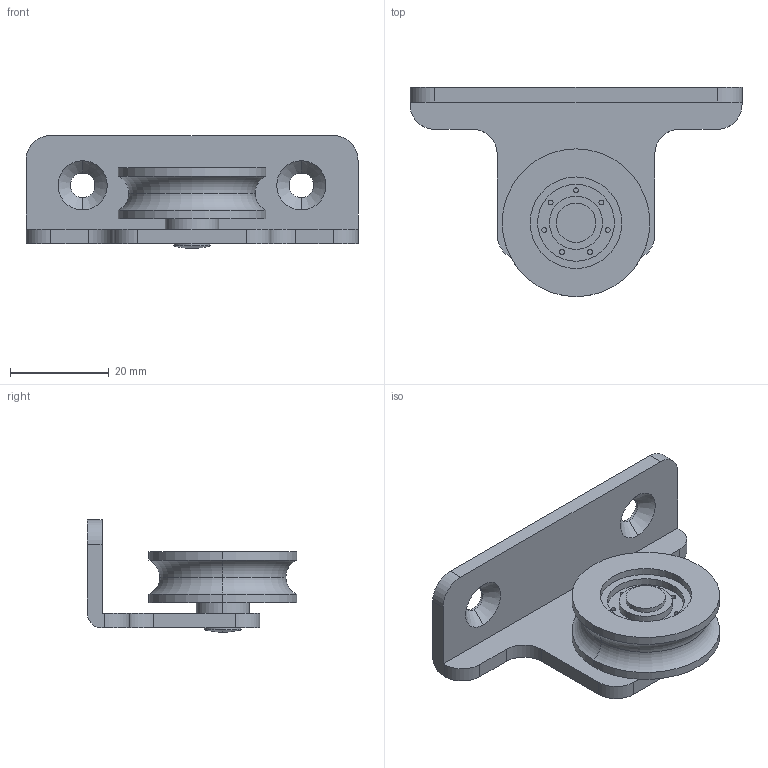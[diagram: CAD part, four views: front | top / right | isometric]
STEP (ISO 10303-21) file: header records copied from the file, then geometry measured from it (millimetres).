
FILE_DESCRIPTION (( 'STEP AP214' ), '1' );
FILE_NAME ('1.3050 Liukuovipyörä.STEP', '2025-09-09T09:35:03', ( '' ), ( '' ), 'SwSTEP 2.0', 'SolidWorks 2025', '' );
FILE_SCHEMA (( 'AUTOMOTIVE_DESIGN' ));
Length unit declared in the file: millimetre
Products named in the file (1): 1.3050 Liukuovipyörä
Bounding box: 67.4 x 42.5 x 22.89 mm (x, y, z)
Volume: 13305.9 mm3; surface area: 8894.3 mm2
Topology: 1 solids, 1 shells, 80 faces, 193 edges, 124 vertices
Faces by surface type: cylinder 47, plane 21, cone 6, torus 4, sphere 2
Entity records: 2588 total; most frequent: DIRECTION 465, CARTESIAN_POINT 398, ORIENTED_EDGE 386, EDGE_CURVE 193, AXIS2_PLACEMENT_3D 191, VERTEX_POINT 124, CIRCLE 110, EDGE_LOOP 107
